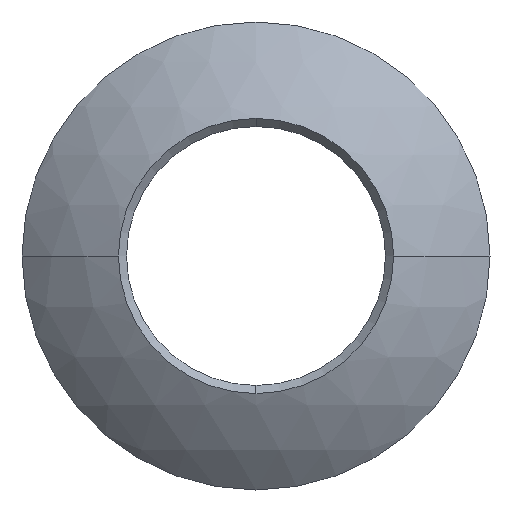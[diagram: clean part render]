
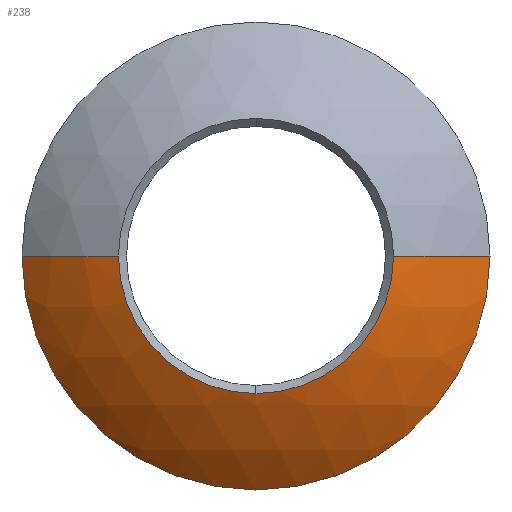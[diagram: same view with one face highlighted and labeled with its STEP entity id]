
A CAD part, left-side view. The second image highlights one B-rep face of the part: STEP entity #238.
In plain terms, the highlighted spherical face has radius 41 mm.
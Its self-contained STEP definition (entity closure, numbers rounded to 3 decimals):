
#1 = DIRECTION ( 'NONE',  ( 1., 0., 0. ) ) ;
#3 = DIRECTION ( 'NONE',  ( 0., 0., -1. ) ) ;
#9 = AXIS2_PLACEMENT_3D ( 'NONE', #333, #313, #334 ) ;
#10 = CARTESIAN_POINT ( 'NONE',  ( -11.2, 16.462, 0. ) ) ;
#14 = VERTEX_POINT ( 'NONE', #10 ) ;
#18 = EDGE_LOOP ( 'NONE', ( #116, #132, #273, #151, #358, #146 ) ) ;
#27 = AXIS2_PLACEMENT_3D ( 'NONE', #169, #204, #254 ) ;
#34 = AXIS2_PLACEMENT_3D ( 'NONE', #298, #3, #85 ) ;
#53 = SPHERICAL_SURFACE ( 'NONE', #9, 41. ) ;
#54 = AXIS2_PLACEMENT_3D ( 'NONE', #202, #136, #227 ) ;
#62 = CARTESIAN_POINT ( 'NONE',  ( -3.6, 0., 0. ) ) ;
#75 = CARTESIAN_POINT ( 'NONE',  ( -3.6, -28., 0. ) ) ;
#85 = DIRECTION ( 'NONE',  ( 0., 1., 0. ) ) ;
#99 = VERTEX_POINT ( 'NONE', #75 ) ;
#109 = FACE_OUTER_BOUND ( 'NONE', #18, .T. ) ;
#116 = ORIENTED_EDGE ( 'NONE', *, *, #335, .T. ) ;
#117 = CIRCLE ( 'NONE', #27, 28. ) ;
#125 = DIRECTION ( 'NONE',  ( -1., 0., 0. ) ) ;
#132 = ORIENTED_EDGE ( 'NONE', *, *, #279, .T. ) ;
#134 = EDGE_CURVE ( 'NONE', #267, #325, #276, .T. ) ;
#136 = DIRECTION ( 'NONE',  ( -1., 0., 0. ) ) ;
#138 = CARTESIAN_POINT ( 'NONE',  ( -3.6, 28., 0. ) ) ;
#143 = AXIS2_PLACEMENT_3D ( 'NONE', #62, #125, #210 ) ;
#146 = ORIENTED_EDGE ( 'NONE', *, *, #196, .T. ) ;
#149 = CIRCLE ( 'NONE', #34, 41. ) ;
#151 = ORIENTED_EDGE ( 'NONE', *, *, #203, .F. ) ;
#154 = CARTESIAN_POINT ( 'NONE',  ( 26.35, 0., 0. ) ) ;
#164 = CIRCLE ( 'NONE', #370, 41. ) ;
#169 = CARTESIAN_POINT ( 'NONE',  ( -3.6, 0., 0. ) ) ;
#170 = CARTESIAN_POINT ( 'NONE',  ( -3.6, 0., -28. ) ) ;
#175 = CIRCLE ( 'NONE', #143, 28. ) ;
#181 = VERTEX_POINT ( 'NONE', #170 ) ;
#182 = AXIS2_PLACEMENT_3D ( 'NONE', #284, #259, #289 ) ;
#183 = CARTESIAN_POINT ( 'NONE',  ( -11.2, 0., -16.462 ) ) ;
#185 = CARTESIAN_POINT ( 'NONE',  ( -11.2, -16.462, 0. ) ) ;
#196 = EDGE_CURVE ( 'NONE', #220, #181, #117, .T. ) ;
#202 = CARTESIAN_POINT ( 'NONE',  ( -11.2, 0., 0. ) ) ;
#203 = EDGE_CURVE ( 'NONE', #14, #267, #349, .T. ) ;
#204 = DIRECTION ( 'NONE',  ( -1., 0., 0. ) ) ;
#210 = DIRECTION ( 'NONE',  ( 0., 0., 1. ) ) ;
#220 = VERTEX_POINT ( 'NONE', #138 ) ;
#227 = DIRECTION ( 'NONE',  ( 0., 0., 1. ) ) ;
#238 = ADVANCED_FACE ( 'NONE', ( #109 ), #53, .T. ) ;
#254 = DIRECTION ( 'NONE',  ( 0., 0., 1. ) ) ;
#259 = DIRECTION ( 'NONE',  ( -1., 0., 0. ) ) ;
#267 = VERTEX_POINT ( 'NONE', #183 ) ;
#270 = DIRECTION ( 'NONE',  ( 0., 0., 1. ) ) ;
#273 = ORIENTED_EDGE ( 'NONE', *, *, #134, .F. ) ;
#276 = CIRCLE ( 'NONE', #54, 16.462 ) ;
#279 = EDGE_CURVE ( 'NONE', #99, #325, #149, .T. ) ;
#284 = CARTESIAN_POINT ( 'NONE',  ( -11.2, 0., 0. ) ) ;
#289 = DIRECTION ( 'NONE',  ( 0., 0., 1. ) ) ;
#298 = CARTESIAN_POINT ( 'NONE',  ( 26.35, 0., 0. ) ) ;
#313 = DIRECTION ( 'NONE',  ( 0., 0., -1. ) ) ;
#325 = VERTEX_POINT ( 'NONE', #185 ) ;
#327 = EDGE_CURVE ( 'NONE', #220, #14, #164, .T. ) ;
#333 = CARTESIAN_POINT ( 'NONE',  ( 26.35, 0., 0. ) ) ;
#334 = DIRECTION ( 'NONE',  ( 0., 1., 0. ) ) ;
#335 = EDGE_CURVE ( 'NONE', #181, #99, #175, .T. ) ;
#349 = CIRCLE ( 'NONE', #182, 16.462 ) ;
#358 = ORIENTED_EDGE ( 'NONE', *, *, #327, .F. ) ;
#370 = AXIS2_PLACEMENT_3D ( 'NONE', #154, #270, #1 ) ;
